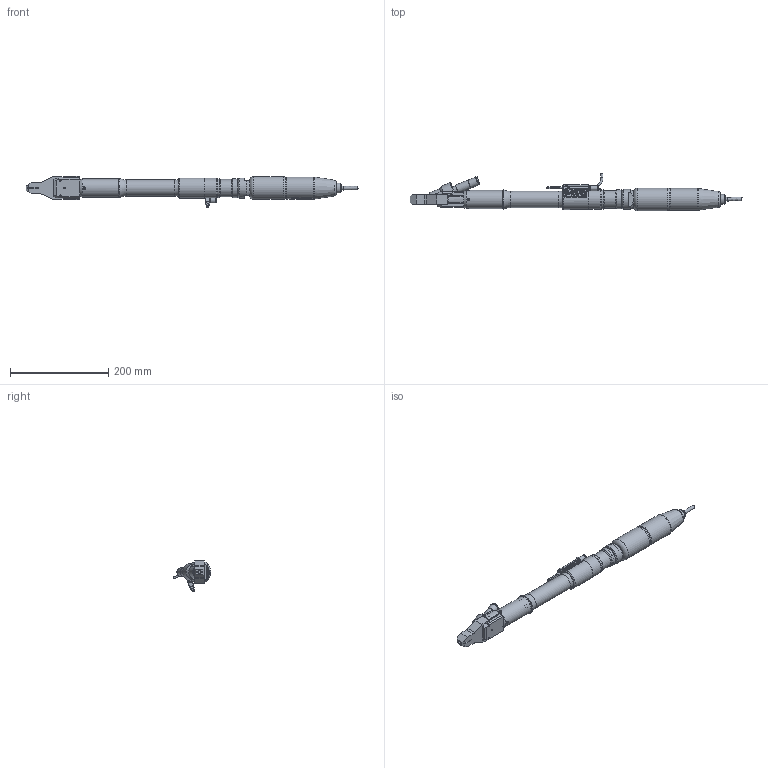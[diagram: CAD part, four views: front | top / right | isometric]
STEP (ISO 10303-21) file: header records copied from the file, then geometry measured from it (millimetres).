
FILE_DESCRIPTION(/* description */ ('© Copyright 2019 – Urheberrechtshinweis Diese CAD-Daten sind urheberrechtlich geschützt. Das Urheberrecht liegt, soweit nicht ausdrücklich anders gekennzeichnet, bei Stöger Automation GmbH. Bitte fragen Sie uns, falls Sie die CAD-Daten vervielfältigen oder','CAx-IF Rec.Pracs.---Representation and Presentation of Product Manufacturing Information (PMI)---4.0---2014-10-13'),/* implementation_level */ '2;1');
FILE_NAME(/* name */ 'H:\00_0 Arbeiten für Marketing\580005\3D_Step_automatic_screwdriver_for_screws_HSE30.stp',/* time_stamp */ '2020-04-27T15:28:21+02:00',/* author */ ('Stöger Automation GmbH'),/* organization */ ('Stöger Automation GmbH'),/* preprocessor_version */ 'ST-DEVELOPER v17',/* originating_system */ 'Autodesk Inventor 2018',/* authorisation */ '');
FILE_SCHEMA (('AP242_MANAGED_MODEL_BASED_3D_ENGINEERING_MIM_LF { 1 0 10303 442 1 1 4 }'));
Length unit declared in the file: millimetre
Products named in the file (1): 580005
Bounding box: 677.19 x 76.31 x 64.05 mm (x, y, z)
Volume: 244281.9 mm3; surface area: 189693.7 mm2
Topology: 16 solids, 17 shells, 1761 faces, 4854 edges, 3235 vertices
Faces by surface type: plane 864, cylinder 382, bspline 318, cone 147, torus 42, sphere 8
Full cylindrical faces by diameter (mm): 2 x2, 2.459 x1, 3 x7, 3.1 x4, 3.242 x2, 3.3 x2, 3.5 x1, 3.8 x1, 4 x6, 4.1 x2, 4.134 x7, 4.4 x4, 4.459 x1, 5 x8, 5.1 x1, 5.5 x1, 6 x3, 6.1 x1, 6.6 x2, 6.647 x4, 7.8 x3, 8 x5, 8.2 x2, 8.5 x1, 8.8 x1, 9 x1, 9.9 x2, 10 x1, 10.5 x1, 15 x2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
Entity records: 133713 total; most frequent: CARTESIAN_POINT 89427, ORIENTED_EDGE 9666, DIRECTION 7915, EDGE_CURVE 4833, VERTEX_POINT 3235, AXIS2_PLACEMENT_3D 2780, LINE 2355, VECTOR 2355
